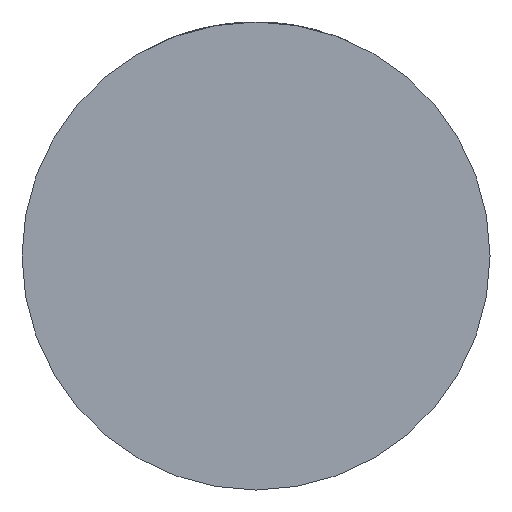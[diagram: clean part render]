
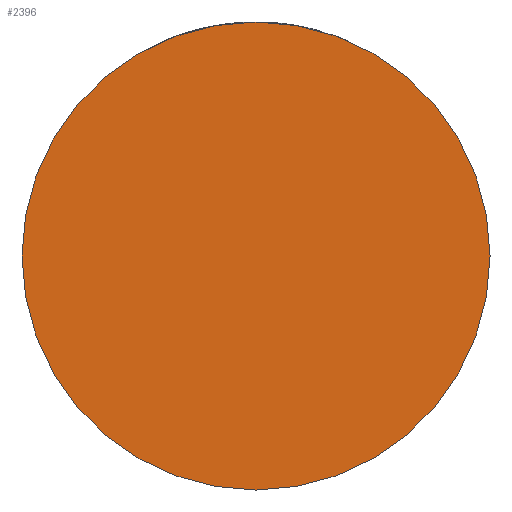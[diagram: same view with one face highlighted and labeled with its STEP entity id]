
A CAD part, front view. The second image highlights one B-rep face of the part: STEP entity #2396.
In plain terms, the highlighted planar face has unit normal (0, -1, 0).
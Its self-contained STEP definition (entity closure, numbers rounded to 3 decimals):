
#85 = DIRECTION ( 'NONE',  ( 0., -1., 0. ) ) ;
#219 = EDGE_LOOP ( 'NONE', ( #802, #635 ) ) ;
#262 = AXIS2_PLACEMENT_3D ( 'NONE', #1851, #85, #3147 ) ;
#635 = ORIENTED_EDGE ( 'NONE', *, *, #3653, .T. ) ;
#802 = ORIENTED_EDGE ( 'NONE', *, *, #1743, .T. ) ;
#1409 = FACE_OUTER_BOUND ( 'NONE', #219, .T. ) ;
#1423 = CARTESIAN_POINT ( 'NONE',  ( 0., -25., 0. ) ) ;
#1613 = CARTESIAN_POINT ( 'NONE',  ( 32., -25., 0. ) ) ;
#1719 = DIRECTION ( 'NONE',  ( 0., -1., 0. ) ) ;
#1743 = EDGE_CURVE ( 'NONE', #2414, #2805, #1886, .T. ) ;
#1851 = CARTESIAN_POINT ( 'NONE',  ( 0., -25., 0. ) ) ;
#1886 = CIRCLE ( 'NONE', #2961, 32. ) ;
#2083 = CARTESIAN_POINT ( 'NONE',  ( -32., -25., 0. ) ) ;
#2122 = DIRECTION ( 'NONE',  ( 0., -1., 0. ) ) ;
#2396 = ADVANCED_FACE ( 'NONE', ( #1409 ), #4421, .T. ) ;
#2414 = VERTEX_POINT ( 'NONE', #2083 ) ;
#2416 = DIRECTION ( 'NONE',  ( 1., 0., 0. ) ) ;
#2805 = VERTEX_POINT ( 'NONE', #1613 ) ;
#2961 = AXIS2_PLACEMENT_3D ( 'NONE', #1423, #2122, #3129 ) ;
#3128 = CIRCLE ( 'NONE', #262, 32. ) ;
#3129 = DIRECTION ( 'NONE',  ( 1., 0., 0. ) ) ;
#3147 = DIRECTION ( 'NONE',  ( 1., 0., 0. ) ) ;
#3400 = CARTESIAN_POINT ( 'NONE',  ( 0., -25., 0. ) ) ;
#3653 = EDGE_CURVE ( 'NONE', #2805, #2414, #3128, .T. ) ;
#3896 = AXIS2_PLACEMENT_3D ( 'NONE', #3400, #1719, #2416 ) ;
#4421 = PLANE ( 'NONE',  #3896 ) ;
